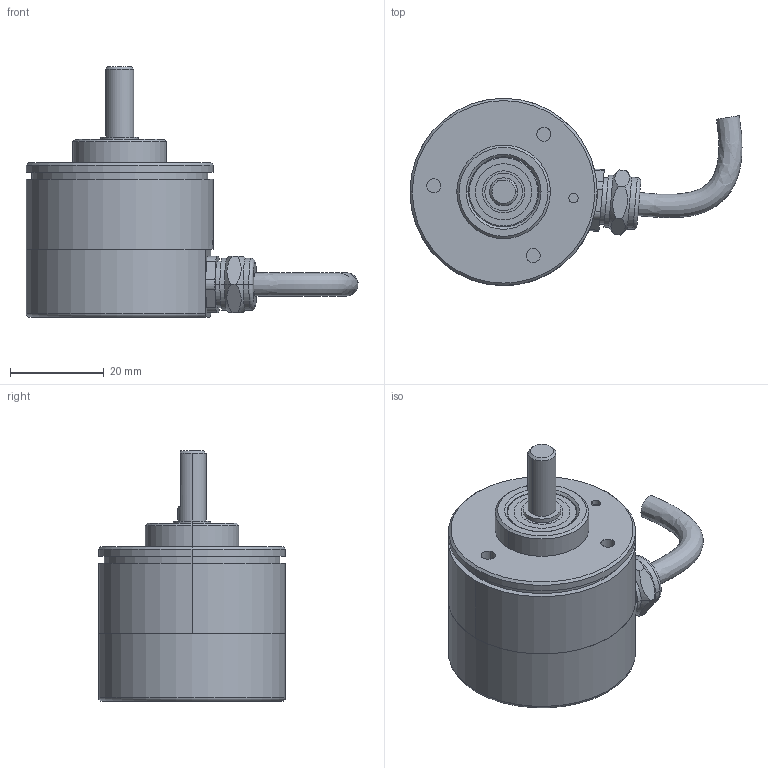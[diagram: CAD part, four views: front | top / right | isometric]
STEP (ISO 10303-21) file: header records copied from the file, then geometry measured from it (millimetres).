
FILE_DESCRIPTION(/* description */ (''),/* implementation_level */ '2;1');
FILE_NAME(/* name */ '编码器 IP68-BRT38.stp',/* time_stamp */ '2022-04-21T18:48:48+08:00',/* author */ (''),/* organization */ (''),/* preprocessor_version */ 'ST-DEVELOPER v16.7',/* originating_system */ 'SIEMENS PLM Software NX 12.0',/* authorisation */ '');
FILE_SCHEMA (('AUTOMOTIVE_DESIGN { 1 0 10303 214 3 1 1 1 }'));
Length unit declared in the file: millimetre
Products named in the file (1): Leno56F4E573opmf
Bounding box: 70.93 x 40 x 53.5 mm (x, y, z)
Volume: 22886.7 mm3; surface area: 20839.5 mm2
Topology: 10 solids, 10 shells, 283 faces, 848 edges, 538 vertices
Faces by surface type: cylinder 122, plane 69, torus 53, sphere 26, cone 12, bspline 1
Full cylindrical faces by diameter (mm): 9 x1, 12 x1, 38 x1
Entity records: 10769 total; most frequent: CARTESIAN_POINT 3303, ORIENTED_EDGE 1590, DIRECTION 1525, EDGE_CURVE 795, AXIS2_PLACEMENT_3D 680, VERTEX_POINT 540, CIRCLE 397, EDGE_LOOP 347
